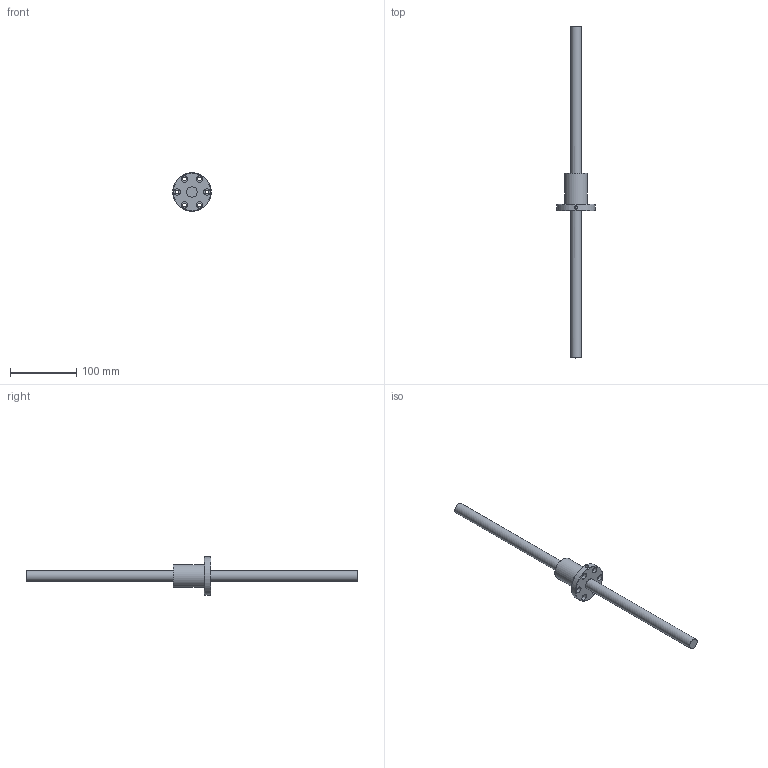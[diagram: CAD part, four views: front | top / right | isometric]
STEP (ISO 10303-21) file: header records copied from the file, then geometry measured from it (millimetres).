
FILE_DESCRIPTION (( 'STEP AP203' ), '1' );
FILE_NAME ('SFNI1610.STEP', '2023-06-05T05:14:44', ( '' ), ( '' ), 'SwSTEP 2.0', 'SolidWorks 2022', '' );
FILE_SCHEMA (( 'CONFIG_CONTROL_DESIGN' ));
Length unit declared in the file: millimetre
Products named in the file (1): SFNI1610
Bounding box: 58 x 500 x 58 mm (x, y, z)
Volume: 154808.8 mm3; surface area: 41407 mm2
Topology: 2 solids, 2 shells, 35 faces, 68 edges, 45 vertices
Faces by surface type: cylinder 20, plane 12, torus 3
Full cylindrical faces by diameter (mm): 4 x1, 5 x1, 5.5 x6, 9.5 x6, 16 x2, 34 x1, 58 x1
Entity records: 1449 total; most frequent: CARTESIAN_POINT 699, DIRECTION 147, ORIENTED_EDGE 86, EDGE_LOOP 81, AXIS2_PLACEMENT_3D 73, FACE_OUTER_BOUND 56, EDGE_CURVE 43, VERTEX_POINT 42
